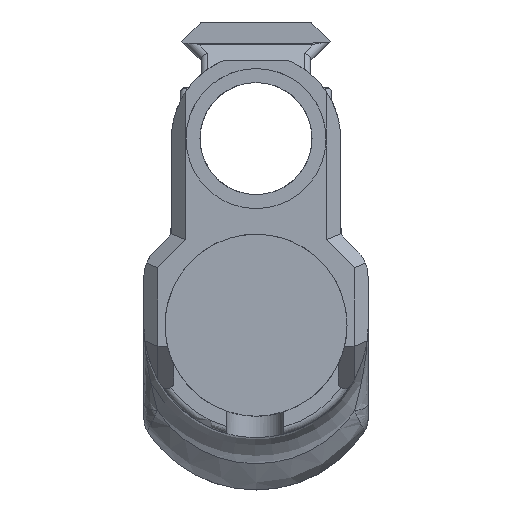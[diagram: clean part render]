
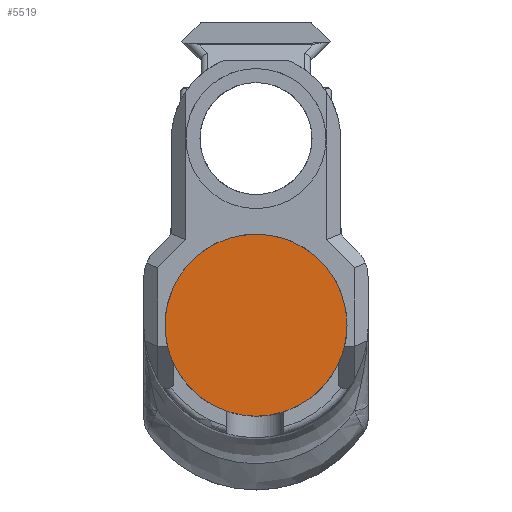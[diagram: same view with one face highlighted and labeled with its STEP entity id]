
A CAD part, front view. The second image highlights one B-rep face of the part: STEP entity #5519.
In plain terms, the highlighted planar face has unit normal (0, -1, 0).
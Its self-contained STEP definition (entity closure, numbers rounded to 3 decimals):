
#108=PLANE('',#5830);
#1554=ORIENTED_EDGE('',*,*,#2278,.F.);
#2278=EDGE_CURVE('',#2886,#2886,#3250,.F.);
#2886=VERTEX_POINT('',#7193);
#3250=CIRCLE('',#5677,13.);
#3429=EDGE_LOOP('',(#1554));
#3675=FACE_BOUND('',#3429,.T.);
#5519=ADVANCED_FACE('',(#3675),#108,.T.);
#5677=AXIS2_PLACEMENT_3D('',#7192,#6073,#6074);
#5830=AXIS2_PLACEMENT_3D('',#8074,#6617,#6618);
#6073=DIRECTION('',(0.,-1.,0.));
#6074=DIRECTION('',(1.,0.,0.));
#6617=DIRECTION('',(0.,-1.,0.));
#6618=DIRECTION('',(-1.,0.,0.005));
#7192=CARTESIAN_POINT('',(-0.001,255.009,9.092));
#7193=CARTESIAN_POINT('',(12.999,255.009,9.092));
#8074=CARTESIAN_POINT('',(9.124,255.009,-2.738));
